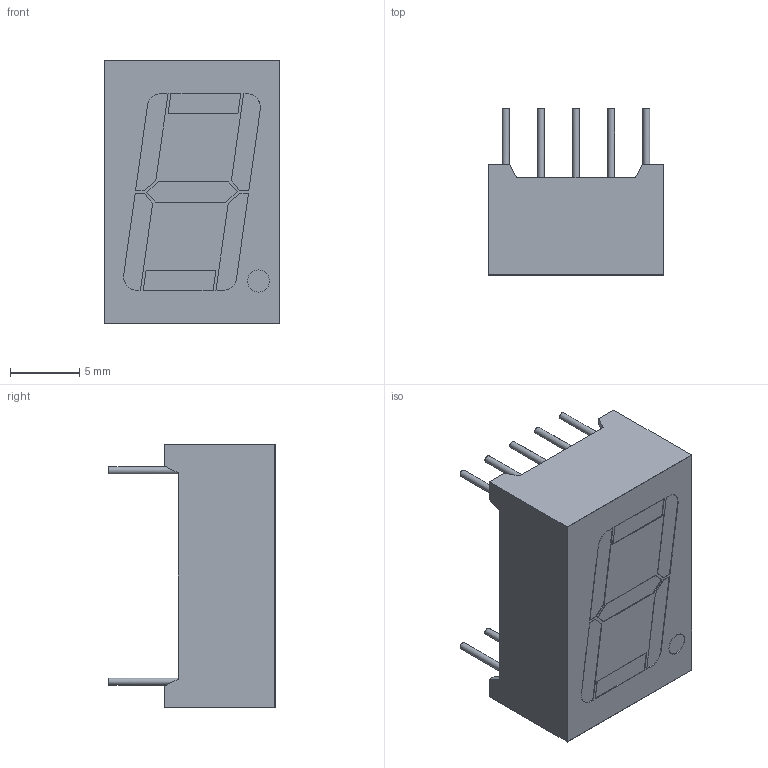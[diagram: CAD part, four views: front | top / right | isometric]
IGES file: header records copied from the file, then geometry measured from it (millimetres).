
Start section: Data from Parasolid IGES Translator 26.1.183, Copyright(c) 2006 Siemens PLM Software. All Rights Reserved.
Global section: file name: 656a3aa7db4dd143170ae7c2.iges; native system: By Siemens PLM Incorporated; preprocessor: XPlus GENERIC/IGES 26.1.183; author: Noname; organization: Noname; date: 20231201.195727; units: metre
Bounding box: 12.7 x 12 x 19 mm (x, y, z)
Surface area: 2771.3 mm2 (no closed solid volume)
Topology: 0 solids, 0 shells, 261 faces, 1298 edges, 1254 vertices
Faces by surface type: extrusion 233, revolution 28
